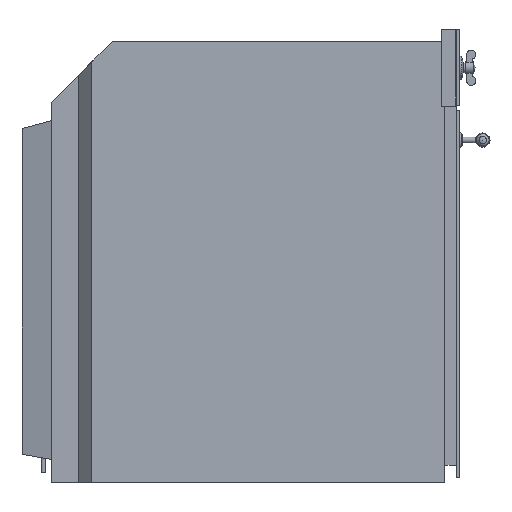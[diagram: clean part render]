
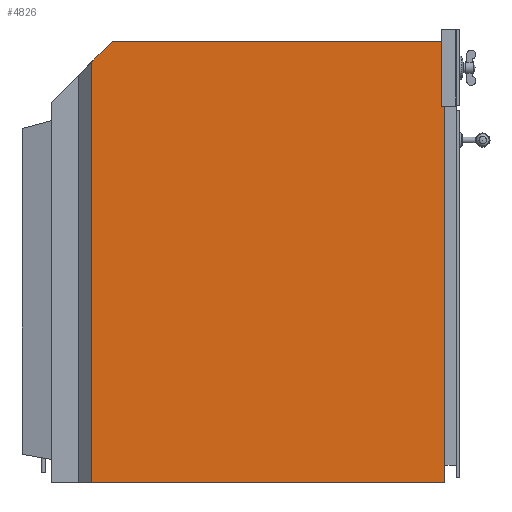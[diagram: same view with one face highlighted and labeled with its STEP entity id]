
A CAD part, left-side view. The second image highlights one B-rep face of the part: STEP entity #4826.
In plain terms, the highlighted planar face has unit normal (-1, 0, 0).
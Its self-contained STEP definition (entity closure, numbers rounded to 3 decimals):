
#24=LINE('',#6997,#321);
#29=LINE('',#7009,#326);
#52=LINE('',#7071,#349);
#54=LINE('',#7075,#351);
#62=LINE('',#7089,#359);
#63=LINE('',#7091,#360);
#64=LINE('',#7094,#361);
#65=LINE('',#7095,#362);
#321=VECTOR('',#5434,1000.);
#326=VECTOR('',#5441,1000.);
#349=VECTOR('',#5488,1000.);
#351=VECTOR('',#5492,1000.);
#359=VECTOR('',#5504,1000.);
#360=VECTOR('',#5507,1000.);
#361=VECTOR('',#5508,1000.);
#362=VECTOR('',#5509,1000.);
#763=PLANE('',#5060);
#1041=ORIENTED_EDGE('',*,*,#1914,.F.);
#1042=ORIENTED_EDGE('',*,*,#1915,.T.);
#1043=ORIENTED_EDGE('',*,*,#1872,.T.);
#1044=ORIENTED_EDGE('',*,*,#1905,.T.);
#1045=ORIENTED_EDGE('',*,*,#1903,.T.);
#1046=ORIENTED_EDGE('',*,*,#1913,.F.);
#1047=ORIENTED_EDGE('',*,*,#1877,.F.);
#1048=ORIENTED_EDGE('',*,*,#1916,.F.);
#1872=EDGE_CURVE('',#2342,#2343,#24,.T.);
#1877=EDGE_CURVE('',#2346,#2348,#29,.T.);
#1903=EDGE_CURVE('',#2368,#2367,#52,.T.);
#1905=EDGE_CURVE('',#2343,#2368,#54,.T.);
#1913=EDGE_CURVE('',#2348,#2367,#62,.T.);
#1914=EDGE_CURVE('',#2373,#2374,#63,.T.);
#1915=EDGE_CURVE('',#2373,#2342,#64,.T.);
#1916=EDGE_CURVE('',#2374,#2346,#65,.T.);
#2342=VERTEX_POINT('',#6998);
#2343=VERTEX_POINT('',#6999);
#2346=VERTEX_POINT('',#7007);
#2348=VERTEX_POINT('',#7010);
#2367=VERTEX_POINT('',#7070);
#2368=VERTEX_POINT('',#7072);
#2373=VERTEX_POINT('',#7092);
#2374=VERTEX_POINT('',#7093);
#2841=EDGE_LOOP('',(#1041,#1042,#1043,#1044,#1045,#1046,#1047,#1048));
#3117=FACE_BOUND('',#2841,.T.);
#4826=ADVANCED_FACE('',(#3117),#763,.T.);
#5060=AXIS2_PLACEMENT_3D('',#7090,#5505,#5506);
#5434=DIRECTION('',(0.,1.,0.));
#5441=DIRECTION('',(0.,0.,-1.));
#5488=DIRECTION('',(0.,0.,-1.));
#5492=DIRECTION('',(0.,0.707,-0.707));
#5504=DIRECTION('',(0.,1.,0.));
#5505=DIRECTION('',(-1.,0.,0.));
#5506=DIRECTION('',(0.,-1.,0.));
#5507=DIRECTION('',(0.,-1.,0.));
#5508=DIRECTION('',(0.,0.,1.));
#5509=DIRECTION('',(0.,0.,-1.));
#6997=CARTESIAN_POINT('',(-274.75,-468.91,329.1));
#6998=CARTESIAN_POINT('',(-274.75,-464.76,329.1));
#6999=CARTESIAN_POINT('',(-274.75,-35.159,329.1));
#7007=CARTESIAN_POINT('',(-274.75,-468.91,-224.));
#7009=CARTESIAN_POINT('',(-274.75,-468.91,329.1));
#7010=CARTESIAN_POINT('',(-274.75,-468.91,-246.55));
#7070=CARTESIAN_POINT('',(-274.75,-8.26,-246.55));
#7071=CARTESIAN_POINT('',(-274.75,-8.26,345.295));
#7072=CARTESIAN_POINT('',(-274.75,-8.26,302.201));
#7075=CARTESIAN_POINT('',(-274.75,-35.159,329.1));
#7089=CARTESIAN_POINT('',(-274.75,-468.91,-246.55));
#7090=CARTESIAN_POINT('',(-274.75,-230.71,31.183));
#7091=CARTESIAN_POINT('',(-274.75,-230.71,244.795));
#7092=CARTESIAN_POINT('',(-274.75,-464.76,244.795));
#7093=CARTESIAN_POINT('',(-274.75,-468.91,244.795));
#7094=CARTESIAN_POINT('',(-274.75,-464.76,31.183));
#7095=CARTESIAN_POINT('',(-274.75,-468.91,329.1));
